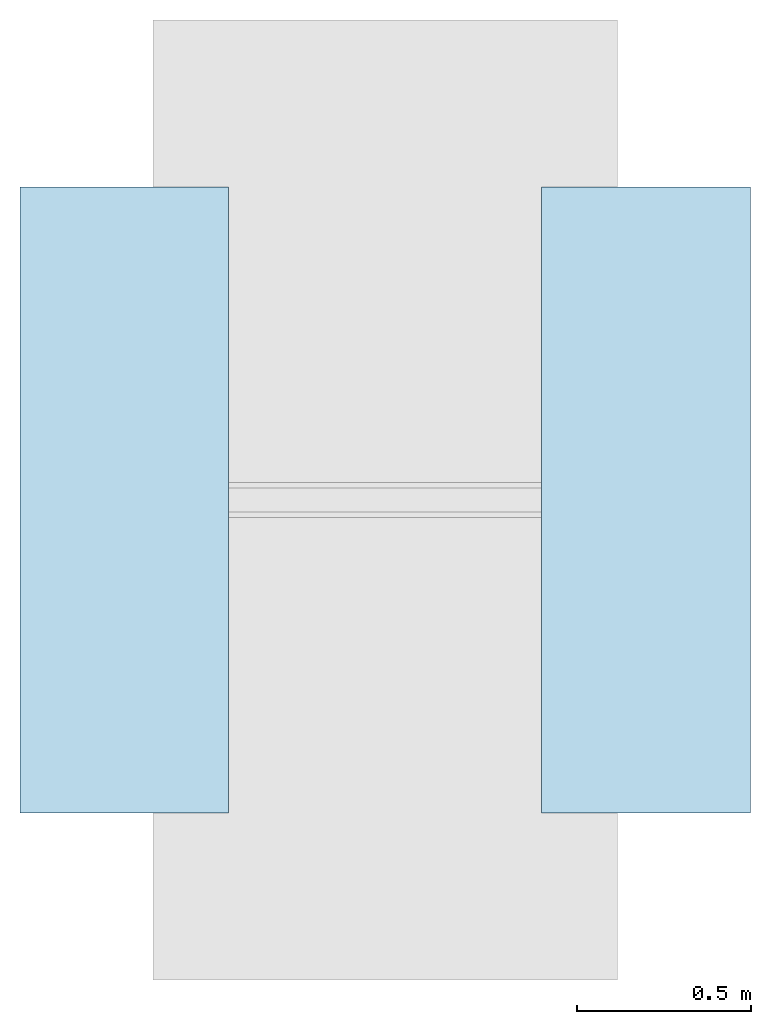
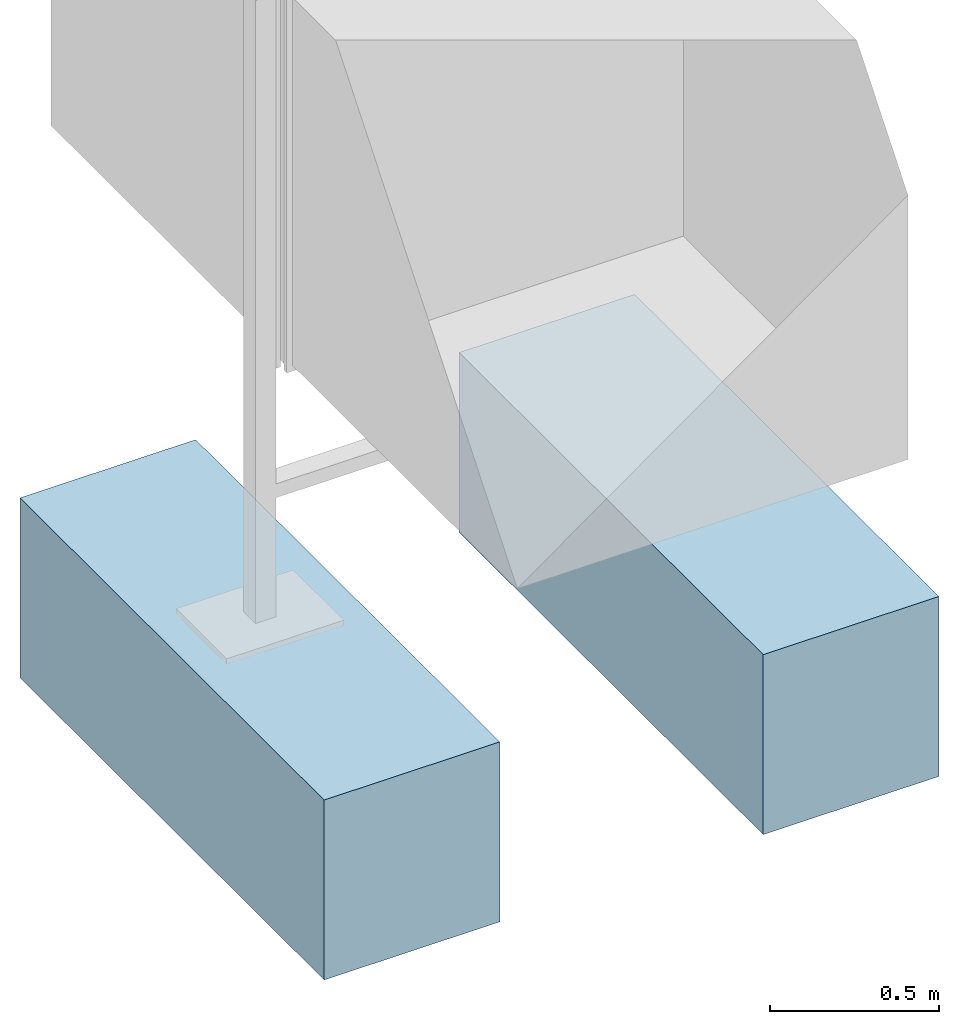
# One storey, incomplete: 2 slabs.
"""IFC4 building model written with IfcOpenShell, lengths in metres."""

from ifc_helpers import new_model, entity, si_unit, converted_unit, direction, frame, frame_2d, origin, origin_2d_with_axis, place, context, subcontext, project, spatial, rectangle, extrude, material, type_object, element, save


model = new_model("IFC4")

# Units and contexts
model_context = context("Model", 3, precision=1e-05, world=origin(), true_north=direction((6.123031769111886e-17, 1.0)))
body_context = subcontext(model_context, "Body", "Model", "MODEL_VIEW")
ifc_project = project(units=[si_unit("LENGTHUNIT", "METRE"), converted_unit("PLANEANGLEUNIT", "DEGREE", entity("IfcPlaneAngleMeasure", 0.017453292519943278), si_unit("PLANEANGLEUNIT", "RADIAN"), dimensions=[0, 0, 0, 0, 0, 0, 0]), si_unit("AREAUNIT", "SQUARE_METRE")], contexts=[model_context])

# Site, building, storey
site_placement = place(None, origin())
site = spatial("IfcSite", under=ifc_project, at=site_placement, Name="Default", CompositionType="ELEMENT")
building_placement = place(site_placement, origin())
building = spatial("IfcBuilding", under=site, at=building_placement, CompositionType="ELEMENT")
storey_placement = place(building_placement, origin())
storey = spatial("IfcBuildingStorey", under=building, at=storey_placement, Name="DB_Bezugshoehe_max_Bahnsteigkante", CompositionType="ELEMENT", Elevation=0.0)

# Slabs
ifc_material = material(Name="DB_Ortbeton", Category="DB_Beton")
slab_type = type_object("IfcSlabType", Name="DB_Vitrine_Fundament:DB_Vitrine_Fundament", PredefinedType="BASESLAB", material=ifc_material)
slab_1_placement = place(storey_placement, origin())
element("IfcSlab", 1, at=slab_1_placement, inside=storey, type_object=slab_type, Name="DB_Vitrine_Fundament:DB_Vitrine_Fundament", ObjectType="DB_Vitrine_Fundament:DB_Vitrine_Fundament", PredefinedType="BASESLAB", context=body_context, shape_type="SweptSolid", body=[
    extrude(rectangle(XDim=1.8, YDim=0.5999999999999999, at=origin_2d_with_axis()), frame((0.0, 0.0, 0.04999999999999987), z_axis=(0.0, 0.0, 1.0), x_axis=(0.0, 1.0, 0.0)), (0.0, 0.0, 1.0), 0.5999999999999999),
    extrude(rectangle(XDim=0.5999999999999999, YDim=1.7999999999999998, at=origin_2d_with_axis()), frame((0.0, 0.0, 0.0), z_axis=(0.0, 0.0, 1.0), x_axis=(-1.0, 0.0, 0.0)), (0.0, 0.0, 1.0), 0.04999999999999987),
])
slab_2_placement = place(storey_placement, origin())
element("IfcSlab", 2, at=slab_2_placement, inside=storey, type_object=slab_type, Name="DB_Vitrine_Fundament:DB_Vitrine_Fundament", ObjectType="DB_Vitrine_Fundament:DB_Vitrine_Fundament", PredefinedType="BASESLAB", context=body_context, shape_type="SweptSolid", body=[
    extrude(rectangle(XDim=1.8, YDim=0.5999999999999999, at=frame_2d((0.0, -8.326672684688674e-17), x_axis=(1.0, 0.0))), frame((1.5000000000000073, 0.0, 0.04999999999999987), z_axis=(0.0, 0.0, 1.0), x_axis=(0.0, 1.0, 0.0)), (0.0, 0.0, 1.0), 0.5999999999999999),
    extrude(rectangle(XDim=0.5999999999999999, YDim=1.7999999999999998, at=frame_2d((-1.3877787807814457e-16, 0.0), x_axis=(1.0, 0.0))), frame((1.500000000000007, 0.0, 0.0), z_axis=(0.0, 0.0, 1.0), x_axis=(-1.0, 0.0, 0.0)), (0.0, 0.0, 1.0), 0.04999999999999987),
])

save(model, "model.ifc")
